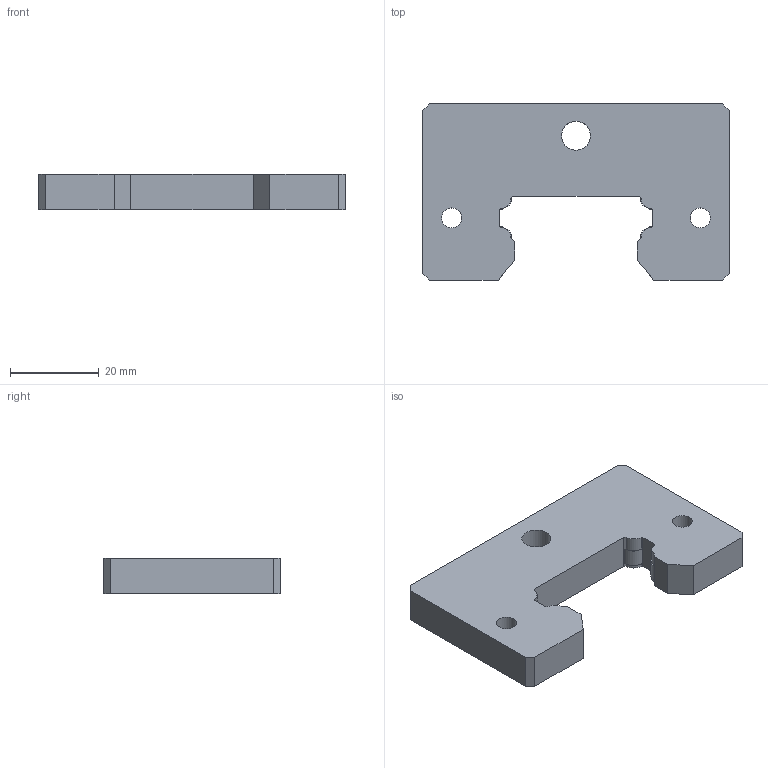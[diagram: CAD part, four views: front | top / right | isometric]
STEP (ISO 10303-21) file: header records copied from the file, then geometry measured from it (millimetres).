
FILE_DESCRIPTION (( 'STEP AP203' ), '1' );
FILE_NAME ('MF 35A.STEP', '2014-12-02T23:41:08', ( 'john' ), ( '' ), 'SwSTEP 2.0', 'SolidWorks 2013', '' );
FILE_SCHEMA (( 'CONFIG_CONTROL_DESIGN' ));
Length unit declared in the file: millimetre
Products named in the file (1): MF 35A
Bounding box: 69 x 39.7 x 8 mm (x, y, z)
Volume: 16713.7 mm3; surface area: 6608.6 mm2
Topology: 1 solids, 1 shells, 49 faces, 141 edges, 94 vertices
Faces by surface type: plane 34, cylinder 15
Full cylindrical faces by diameter (mm): 4.5 x2, 6.5 x1
Entity records: 1679 total; most frequent: CARTESIAN_POINT 282, ORIENTED_EDGE 276, DIRECTION 268, EDGE_CURVE 138, VECTOR 108, LINE 108, VERTEX_POINT 94, AXIS2_PLACEMENT_3D 80
